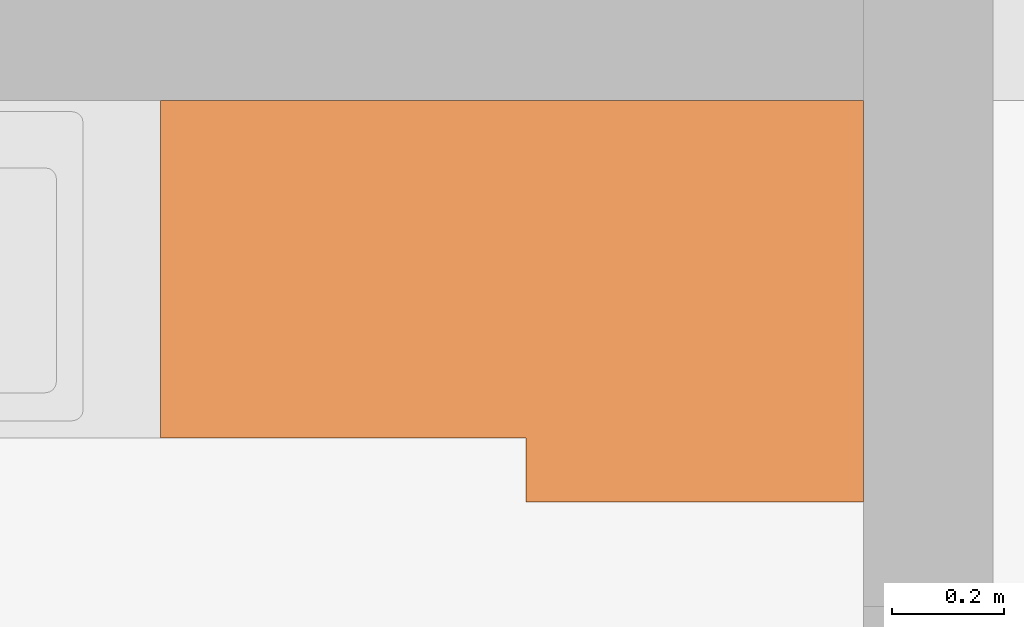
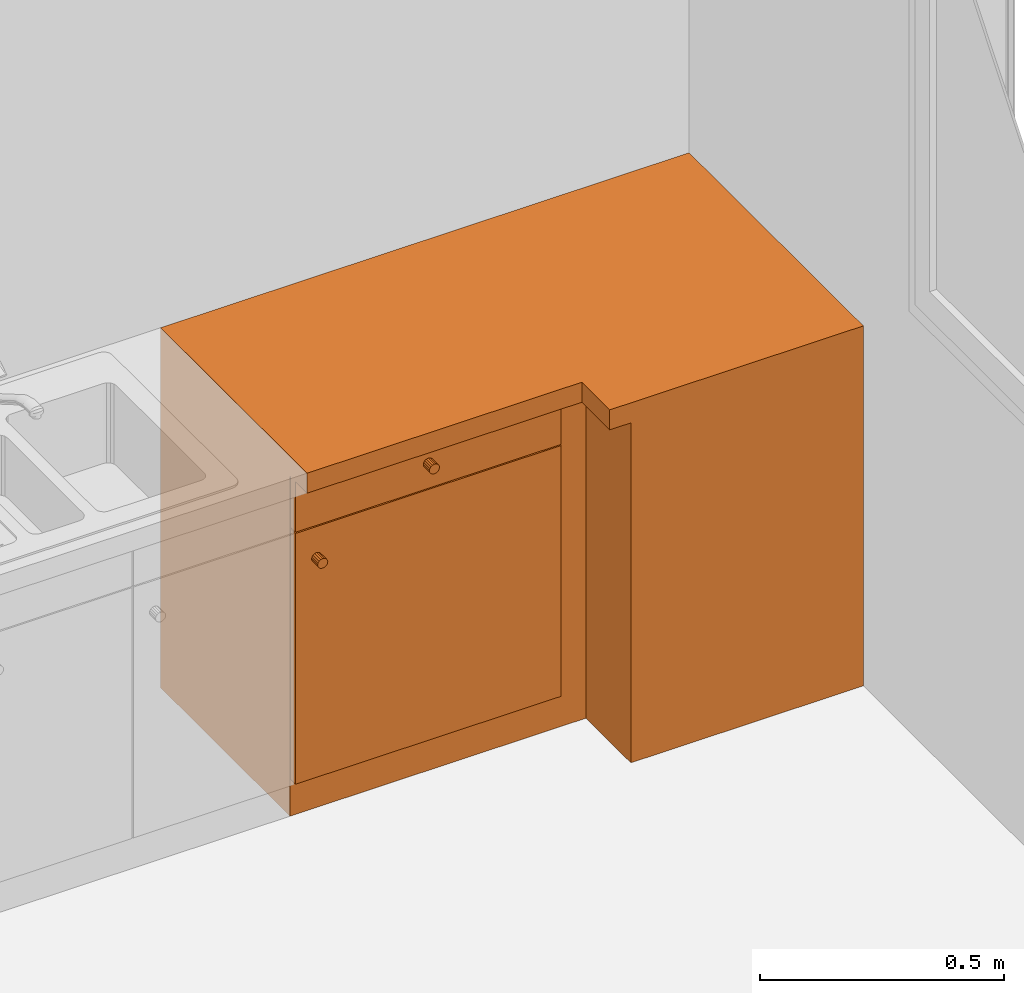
# One storey, part 12 of 13: 1 proxy.
"""IFC2X3 building model written with IfcOpenShell, lengths in metres."""

from ifc_helpers import new_model, entity, si_unit, converted_unit, derived_unit, money_unit, direction, frame, origin_with_axes, place, context, subcontext, project, spatial, faceted_brep, type_object, element, save


model = new_model("IFC2X3")

# Units and contexts
model_context = context("Model", 3, precision=1e-05, world=origin_with_axes(), true_north=direction((0.0, 1.0)))
body_context = subcontext(model_context, "Body", "Model", "MODEL_VIEW")
ifc_project = project(units=[si_unit("LENGTHUNIT", "METRE"), si_unit("AREAUNIT", "SQUARE_METRE"), si_unit("VOLUMEUNIT", "CUBIC_METRE"), converted_unit("PLANEANGLEUNIT", "DEGREE", entity("IfcPlaneAngleMeasure", 0.0174532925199), si_unit("PLANEANGLEUNIT", "RADIAN"), dimensions=[0, 0, 0, 0, 0, 0, 0]), si_unit("SOLIDANGLEUNIT", "STERADIAN"), money_unit("CHF"), converted_unit("TIMEUNIT", "Year", entity("IfcTimeMeasure", 31556926.0), si_unit("TIMEUNIT", "SECOND"), dimensions=[0, 0, 1, 0, 0, 0, 0]), si_unit("MASSUNIT", "GRAM", prefix="KILO"), si_unit("THERMODYNAMICTEMPERATUREUNIT", "DEGREE_CELSIUS"), si_unit("LUMINOUSINTENSITYUNIT", "LUMEN"), si_unit("ENERGYUNIT", "JOULE", prefix="MEGA"), derived_unit("THERMALCONDUCTANCEUNIT", [(si_unit("POWERUNIT", "WATT"), 1), (si_unit("LENGTHUNIT", "METRE"), -1), (si_unit("THERMODYNAMICTEMPERATUREUNIT", "KELVIN"), -1)]), derived_unit("SPECIFICHEATCAPACITYUNIT", [(si_unit("ENERGYUNIT", "JOULE"), 1), (si_unit("MASSUNIT", "GRAM", prefix="KILO"), -1), (si_unit("THERMODYNAMICTEMPERATUREUNIT", "KELVIN"), -1)]), derived_unit("MASSDENSITYUNIT", [(si_unit("MASSUNIT", "GRAM", prefix="KILO"), 1), (si_unit("VOLUMEUNIT", "CUBIC_METRE"), -1)])], contexts=[model_context])

# Site, building, storey
site_placement = place(None, origin_with_axes())
site = spatial("IfcSite", under=ifc_project, at=site_placement, Name="Site", CompositionType="ELEMENT")
building_placement = place(site_placement, origin_with_axes())
building = spatial("IfcBuilding", under=site, at=building_placement, Name="Bâtiment", CompositionType="ELEMENT")
storey_placement = place(building_placement, origin_with_axes())
storey = spatial("IfcBuildingStorey", under=building, at=storey_placement, Name="SOUS-SOL", CompositionType="ELEMENT", Elevation=0.0)

# Proxy
building_element_proxy_type = type_object("IfcBuildingElementProxyType", Name="Elément bas d'angle S 24", PredefinedType="NOTDEFINED")
proxy_placement = place(storey_placement, frame((94.7355190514, 13.5662968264, -2.74), z_axis=(0.0, 0.0, 1.0), x_axis=(1.0, 0.0, 0.0)))
element("IfcBuildingElementProxy", 1, at=proxy_placement, inside=storey, type_object=building_element_proxy_type, Name="MOB-1381", context=body_context, shape_type="Brep", body=[
    faceted_brep([(0.0, 0.0, 0.0), (0.0, 0.0, 0.09), (-0.55, 0.0, 0.09), (-0.55, 0.0, 0.0), (0.0, 0.714044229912, 0.0), (0.0, 0.714044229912, 0.09), (-1.25, 0.714044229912, 0.09), (-1.25, 0.184044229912, 0.09), (-0.55, 0.184044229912, 0.09), (-0.55, 0.184044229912, 0.0), (-1.25, 0.184044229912, 0.0), (-1.25, 0.714044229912, 0.0)], [[[0, 1, 2, 3]], [[4, 5, 1, 0]], [[1, 5, 6, 7, 8, 2]], [[3, 2, 8, 9]], [[0, 3, 9, 10, 11, 4]], [[11, 6, 5, 4]], [[10, 7, 6, 11]], [[9, 8, 7, 10]]]),
    faceted_brep([(0.0, 0.0, 0.09), (0.0, 0.0, 0.11), (-0.55, 0.0, 0.11), (-0.55, 0.0, 0.09), (0.0, 0.714044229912, 0.09), (0.0, 0.714044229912, 0.11), (-0.02, 0.714044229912, 0.11), (-1.23, 0.714044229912, 0.11), (-1.25, 0.714044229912, 0.11), (-1.25, 0.184044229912, 0.11), (-1.23, 0.184044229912, 0.11), (-0.62, 0.184044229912, 0.11), (-0.55, 0.184044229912, 0.11), (-0.55, 0.184044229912, 0.09), (-0.62, 0.184044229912, 0.09), (-1.23, 0.184044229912, 0.09), (-1.25, 0.184044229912, 0.09), (-1.25, 0.714044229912, 0.09), (-1.23, 0.714044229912, 0.09), (-0.02, 0.714044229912, 0.09)], [[[0, 1, 2, 3]], [[4, 5, 1, 0]], [[1, 5, 6, 7, 8, 9, 10, 11, 12, 2]], [[3, 2, 12, 13]], [[0, 3, 13, 14, 15, 16, 17, 18, 19, 4]], [[19, 6, 5, 4]], [[18, 7, 6, 19]], [[17, 8, 7, 18]], [[16, 9, 8, 17]], [[15, 10, 9, 16]], [[14, 11, 10, 15]], [[13, 12, 11, 14]]]),
    faceted_brep([(0.0, 0.0, 0.11), (0.0, 0.0, 0.83), (-0.55, 0.0, 0.83), (-0.55, 0.0, 0.11), (0.0, 0.714044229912, 0.11), (0.0, 0.714044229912, 0.83), (-1.25, 0.714044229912, 0.83), (-1.25, 0.184044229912, 0.83), (-1.23, 0.184044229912, 0.83), (-1.23, 0.694044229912, 0.83), (-0.02, 0.694044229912, 0.83), (-0.02, 0.02, 0.83), (-0.53, 0.02, 0.83), (-0.53, 0.204044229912, 0.83), (-0.62, 0.204044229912, 0.83), (-0.62, 0.184044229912, 0.83), (-0.55, 0.184044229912, 0.83), (-0.55, 0.184044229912, 0.11), (-0.62, 0.184044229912, 0.11), (-0.62, 0.204044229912, 0.11), (-0.53, 0.204044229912, 0.11), (-0.53, 0.02, 0.11), (-0.02, 0.02, 0.11), (-0.02, 0.694044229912, 0.11), (-1.23, 0.694044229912, 0.11), (-1.23, 0.184044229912, 0.11), (-1.25, 0.184044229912, 0.11), (-1.25, 0.714044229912, 0.11)], [[[0, 1, 2, 3]], [[4, 5, 1, 0]], [[1, 5, 6, 7, 8, 9, 10, 11, 12, 13, 14, 15, 16, 2]], [[3, 2, 16, 17]], [[0, 3, 17, 18, 19, 20, 21, 22, 23, 24, 25, 26, 27, 4]], [[27, 6, 5, 4]], [[26, 7, 6, 27]], [[25, 8, 7, 26]], [[24, 9, 8, 25]], [[23, 10, 9, 24]], [[22, 11, 10, 23]], [[21, 12, 11, 22]], [[20, 13, 12, 21]], [[19, 14, 13, 20]], [[18, 15, 14, 19]], [[17, 16, 15, 18]]]),
    faceted_brep([(0.0, 0.0, 0.83), (0.0, 0.0, 0.85), (-0.55, 0.0, 0.85), (-0.55, 0.0, 0.83), (0.0, 0.714044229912, 0.83), (0.0, 0.714044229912, 0.85), (-0.02, 0.714044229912, 0.85), (-1.23, 0.714044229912, 0.85), (-1.25, 0.714044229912, 0.85), (-1.25, 0.184044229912, 0.85), (-1.23, 0.184044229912, 0.85), (-0.62, 0.184044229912, 0.85), (-0.55, 0.184044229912, 0.85), (-0.55, 0.184044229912, 0.83), (-0.62, 0.184044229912, 0.83), (-1.23, 0.184044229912, 0.83), (-1.25, 0.184044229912, 0.83), (-1.25, 0.714044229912, 0.83), (-1.23, 0.714044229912, 0.83), (-0.02, 0.714044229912, 0.83)], [[[0, 1, 2, 3]], [[4, 5, 1, 0]], [[1, 5, 6, 7, 8, 9, 10, 11, 12, 2]], [[3, 2, 12, 13]], [[0, 3, 13, 14, 15, 16, 17, 18, 19, 4]], [[19, 6, 5, 4]], [[18, 7, 6, 19]], [[17, 8, 7, 18]], [[16, 9, 8, 17]], [[15, 10, 9, 16]], [[14, 11, 10, 15]], [[13, 12, 11, 14]]]),
    faceted_brep([(0.0, 0.0, 0.85), (0.0, 0.0, 0.9), (-0.6, 0.0, 0.9), (-0.6, 0.0, 0.85), (0.0, 0.714044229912, 0.85), (0.0, 0.714044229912, 0.9), (-1.25, 0.714044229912, 0.9), (-1.25, 0.114044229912, 0.9), (-0.6, 0.114044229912, 0.9), (-0.6, 0.114044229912, 0.85), (-1.25, 0.114044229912, 0.85), (-1.25, 0.714044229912, 0.85)], [[[0, 1, 2, 3]], [[4, 5, 1, 0]], [[1, 5, 6, 7, 8, 2]], [[3, 2, 8, 9]], [[0, 3, 9, 10, 11, 4]], [[11, 6, 5, 4]], [[10, 7, 6, 11]], [[9, 8, 7, 10]]]),
    faceted_brep([(-0.02, 0.02, 0.71), (-0.02, 0.02, 0.73), (-0.53, 0.02, 0.73), (-0.53, 0.02, 0.71), (-0.02, 0.694044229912, 0.71), (-0.02, 0.694044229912, 0.73), (-1.23, 0.694044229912, 0.73), (-1.23, 0.204044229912, 0.73), (-0.53, 0.204044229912, 0.73), (-0.53, 0.204044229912, 0.71), (-1.23, 0.204044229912, 0.71), (-1.23, 0.694044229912, 0.71)], [[[0, 1, 2, 3]], [[4, 5, 1, 0]], [[1, 5, 6, 7, 8, 2]], [[3, 2, 8, 9]], [[0, 3, 9, 10, 11, 4]], [[11, 6, 5, 4]], [[10, 7, 6, 11]], [[9, 8, 7, 10]]]),
    faceted_brep([(-0.02, 0.02, 0.4), (-0.02, 0.02, 0.42), (-0.53, 0.02, 0.42), (-0.53, 0.02, 0.4), (-0.02, 0.694044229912, 0.4), (-0.02, 0.694044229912, 0.42), (-1.23, 0.694044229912, 0.42), (-1.23, 0.204044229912, 0.42), (-0.53, 0.204044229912, 0.42), (-0.53, 0.204044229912, 0.4), (-1.23, 0.204044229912, 0.4), (-1.23, 0.694044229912, 0.4)], [[[0, 1, 2, 3]], [[4, 5, 1, 0]], [[1, 5, 6, 7, 8, 2]], [[3, 2, 8, 9]], [[0, 3, 9, 10, 11, 4]], [[11, 6, 5, 4]], [[10, 7, 6, 11]], [[9, 8, 7, 10]]]),
    faceted_brep([(-0.62, 0.184044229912, 0.7215), (-0.62, 0.164044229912, 0.7215), (-1.2485, 0.164044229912, 0.7215), (-1.2485, 0.184044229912, 0.7215), (-0.62, 0.184044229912, 0.8485), (-0.62, 0.164044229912, 0.8485), (-1.2485, 0.164044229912, 0.8485), (-1.2485, 0.184044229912, 0.8485)], [[[0, 1, 2, 3]], [[4, 5, 1, 0]], [[1, 5, 6, 2]], [[3, 2, 6, 7]], [[0, 3, 7, 4]], [[7, 6, 5, 4]]]),
    faceted_brep([(-0.929657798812, 0.164044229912, 0.77391344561), (-0.93425, 0.164044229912, 0.773), (-0.938842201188, 0.164044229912, 0.77391344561), (-0.942735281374, 0.164044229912, 0.776514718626), (-0.94533655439, 0.164044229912, 0.780407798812), (-0.94625, 0.164044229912, 0.785), (-0.94533655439, 0.164044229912, 0.789592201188), (-0.942735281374, 0.164044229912, 0.793485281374), (-0.938842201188, 0.164044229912, 0.79608655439), (-0.93425, 0.164044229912, 0.797), (-0.929657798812, 0.164044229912, 0.79608655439), (-0.925764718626, 0.164044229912, 0.793485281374), (-0.92316344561, 0.164044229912, 0.789592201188), (-0.92225, 0.164044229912, 0.785), (-0.92316344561, 0.164044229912, 0.780407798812), (-0.925764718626, 0.164044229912, 0.776514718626), (-0.929657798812, 0.139044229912, 0.77391344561), (-0.93425, 0.139044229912, 0.773), (-0.938842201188, 0.139044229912, 0.77391344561), (-0.942735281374, 0.139044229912, 0.776514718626), (-0.94533655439, 0.139044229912, 0.780407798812), (-0.94625, 0.139044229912, 0.785), (-0.94533655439, 0.139044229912, 0.789592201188), (-0.942735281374, 0.139044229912, 0.793485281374), (-0.938842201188, 0.139044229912, 0.79608655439), (-0.93425, 0.139044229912, 0.797), (-0.929657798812, 0.139044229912, 0.79608655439), (-0.925764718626, 0.139044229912, 0.793485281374), (-0.92316344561, 0.139044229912, 0.789592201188), (-0.92225, 0.139044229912, 0.785), (-0.92316344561, 0.139044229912, 0.780407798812), (-0.925764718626, 0.139044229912, 0.776514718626)], [[[0, 1, 2, 3, 4, 5, 6, 7, 8, 9, 10, 11, 12, 13, 14, 15]], [[0, 16, 17, 1]], [[1, 17, 18, 2]], [[2, 18, 19, 3]], [[3, 19, 20, 4]], [[4, 20, 21, 5]], [[5, 21, 22, 6]], [[6, 22, 23, 7]], [[7, 23, 24, 8]], [[8, 24, 25, 9]], [[9, 25, 26, 10]], [[10, 26, 27, 11]], [[11, 27, 28, 12]], [[12, 28, 29, 13]], [[13, 29, 30, 14]], [[14, 30, 31, 15]], [[15, 31, 16, 0]], [[16, 31, 30, 29, 28, 27, 26, 25, 24, 23, 22, 21, 20, 19, 18, 17]]]),
    faceted_brep([(-0.62, 0.184044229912, 0.0915), (-0.62, 0.164044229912, 0.0915), (-1.2485, 0.164044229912, 0.0915), (-1.2485, 0.184044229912, 0.0915), (-0.62, 0.184044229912, 0.7185), (-0.62, 0.164044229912, 0.7185), (-1.2485, 0.164044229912, 0.7185), (-1.2485, 0.184044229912, 0.7185)], [[[0, 1, 2, 3]], [[4, 5, 1, 0]], [[1, 5, 6, 2]], [[3, 2, 6, 7]], [[0, 3, 7, 4]], [[7, 6, 5, 4]]]),
    faceted_brep([(-1.20958655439, 0.164044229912, 0.636907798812), (-1.2105, 0.164044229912, 0.6415), (-1.20958655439, 0.164044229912, 0.646092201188), (-1.20698528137, 0.164044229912, 0.649985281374), (-1.20309220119, 0.164044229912, 0.65258655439), (-1.1985, 0.164044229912, 0.6535), (-1.19390779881, 0.164044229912, 0.65258655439), (-1.19001471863, 0.164044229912, 0.649985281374), (-1.18741344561, 0.164044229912, 0.646092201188), (-1.1865, 0.164044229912, 0.6415), (-1.18741344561, 0.164044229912, 0.636907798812), (-1.19001471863, 0.164044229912, 0.633014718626), (-1.19390779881, 0.164044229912, 0.63041344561), (-1.1985, 0.164044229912, 0.6295), (-1.20309220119, 0.164044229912, 0.63041344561), (-1.20698528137, 0.164044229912, 0.633014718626), (-1.20958655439, 0.139044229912, 0.636907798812), (-1.2105, 0.139044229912, 0.6415), (-1.20958655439, 0.139044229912, 0.646092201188), (-1.20698528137, 0.139044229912, 0.649985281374), (-1.20309220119, 0.139044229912, 0.65258655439), (-1.1985, 0.139044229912, 0.6535), (-1.19390779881, 0.139044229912, 0.65258655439), (-1.19001471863, 0.139044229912, 0.649985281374), (-1.18741344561, 0.139044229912, 0.646092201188), (-1.1865, 0.139044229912, 0.6415), (-1.18741344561, 0.139044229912, 0.636907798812), (-1.19001471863, 0.139044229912, 0.633014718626), (-1.19390779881, 0.139044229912, 0.63041344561), (-1.1985, 0.139044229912, 0.6295), (-1.20309220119, 0.139044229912, 0.63041344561), (-1.20698528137, 0.139044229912, 0.633014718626)], [[[0, 1, 2, 3, 4, 5, 6, 7, 8, 9, 10, 11, 12, 13, 14, 15]], [[0, 16, 17, 1]], [[1, 17, 18, 2]], [[2, 18, 19, 3]], [[3, 19, 20, 4]], [[4, 20, 21, 5]], [[5, 21, 22, 6]], [[6, 22, 23, 7]], [[7, 23, 24, 8]], [[8, 24, 25, 9]], [[9, 25, 26, 10]], [[10, 26, 27, 11]], [[11, 27, 28, 12]], [[12, 28, 29, 13]], [[13, 29, 30, 14]], [[14, 30, 31, 15]], [[15, 31, 16, 0]], [[16, 31, 30, 29, 28, 27, 26, 25, 24, 23, 22, 21, 20, 19, 18, 17]]]),
])

save(model, "model.ifc")
